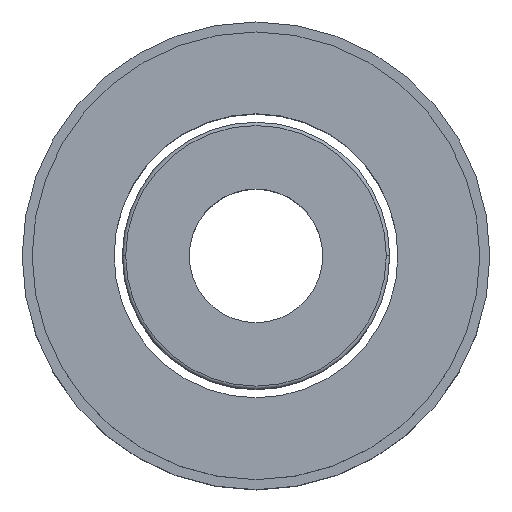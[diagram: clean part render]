
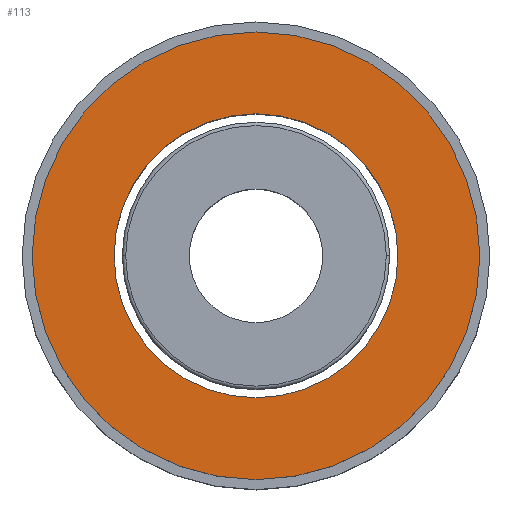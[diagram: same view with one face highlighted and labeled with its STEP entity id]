
A CAD part, top view. The second image highlights one B-rep face of the part: STEP entity #113.
In plain terms, the highlighted planar face has unit normal (0, 0, 1).
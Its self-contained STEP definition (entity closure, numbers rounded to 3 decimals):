
#15 = VERTEX_POINT ( 'NONE', #175 ) ;
#57 = CARTESIAN_POINT ( 'NONE',  ( 0., 0., 0. ) ) ;
#110 = CIRCLE ( 'NONE', #731, 6.7 ) ;
#113 = ADVANCED_FACE ( 'NONE', ( #309, #807 ), #244, .T. ) ;
#132 = DIRECTION ( 'NONE',  ( 0., 0., 1. ) ) ;
#145 = EDGE_CURVE ( 'NONE', #215, #324, #878, .T. ) ;
#154 = AXIS2_PLACEMENT_3D ( 'NONE', #520, #166, #439 ) ;
#165 = ORIENTED_EDGE ( 'NONE', *, *, #565, .F. ) ;
#166 = DIRECTION ( 'NONE',  ( 0., 0., -1. ) ) ;
#175 = CARTESIAN_POINT ( 'NONE',  ( -6.7, 0., 0. ) ) ;
#211 = ORIENTED_EDGE ( 'NONE', *, *, #723, .F. ) ;
#215 = VERTEX_POINT ( 'NONE', #685 ) ;
#244 = PLANE ( 'NONE',  #517 ) ;
#279 = DIRECTION ( 'NONE',  ( -1., 0., 0. ) ) ;
#289 = DIRECTION ( 'NONE',  ( 0., 0., -1. ) ) ;
#309 = FACE_BOUND ( 'NONE', #555, .T. ) ;
#324 = VERTEX_POINT ( 'NONE', #715 ) ;
#334 = EDGE_CURVE ( 'NONE', #324, #215, #488, .T. ) ;
#340 = DIRECTION ( 'NONE',  ( 0., 0., -1. ) ) ;
#355 = VERTEX_POINT ( 'NONE', #483 ) ;
#439 = DIRECTION ( 'NONE',  ( -1., 0., 0. ) ) ;
#472 = DIRECTION ( 'NONE',  ( -1., 0., 0. ) ) ;
#483 = CARTESIAN_POINT ( 'NONE',  ( 6.7, 0., 0. ) ) ;
#488 = CIRCLE ( 'NONE', #823, 4.25 ) ;
#517 = AXIS2_PLACEMENT_3D ( 'NONE', #521, #132, #678 ) ;
#520 = CARTESIAN_POINT ( 'NONE',  ( 0., 0., 0. ) ) ;
#521 = CARTESIAN_POINT ( 'NONE',  ( 0., 6.7, 0. ) ) ;
#555 = EDGE_LOOP ( 'NONE', ( #582, #841 ) ) ;
#565 = EDGE_CURVE ( 'NONE', #15, #355, #830, .T. ) ;
#582 = ORIENTED_EDGE ( 'NONE', *, *, #334, .T. ) ;
#619 = DIRECTION ( 'NONE',  ( 0., 0., -1. ) ) ;
#648 = EDGE_LOOP ( 'NONE', ( #165, #211 ) ) ;
#678 = DIRECTION ( 'NONE',  ( 1., 0., 0. ) ) ;
#685 = CARTESIAN_POINT ( 'NONE',  ( 4.25, 0., 0. ) ) ;
#714 = AXIS2_PLACEMENT_3D ( 'NONE', #755, #619, #472 ) ;
#715 = CARTESIAN_POINT ( 'NONE',  ( -4.25, 0., 0. ) ) ;
#723 = EDGE_CURVE ( 'NONE', #355, #15, #110, .T. ) ;
#731 = AXIS2_PLACEMENT_3D ( 'NONE', #57, #340, #819 ) ;
#755 = CARTESIAN_POINT ( 'NONE',  ( 0., 0., 0. ) ) ;
#807 = FACE_OUTER_BOUND ( 'NONE', #648, .T. ) ;
#819 = DIRECTION ( 'NONE',  ( -1., 0., 0. ) ) ;
#823 = AXIS2_PLACEMENT_3D ( 'NONE', #912, #289, #279 ) ;
#830 = CIRCLE ( 'NONE', #154, 6.7 ) ;
#841 = ORIENTED_EDGE ( 'NONE', *, *, #145, .T. ) ;
#878 = CIRCLE ( 'NONE', #714, 4.25 ) ;
#912 = CARTESIAN_POINT ( 'NONE',  ( 0., 0., 0. ) ) ;
